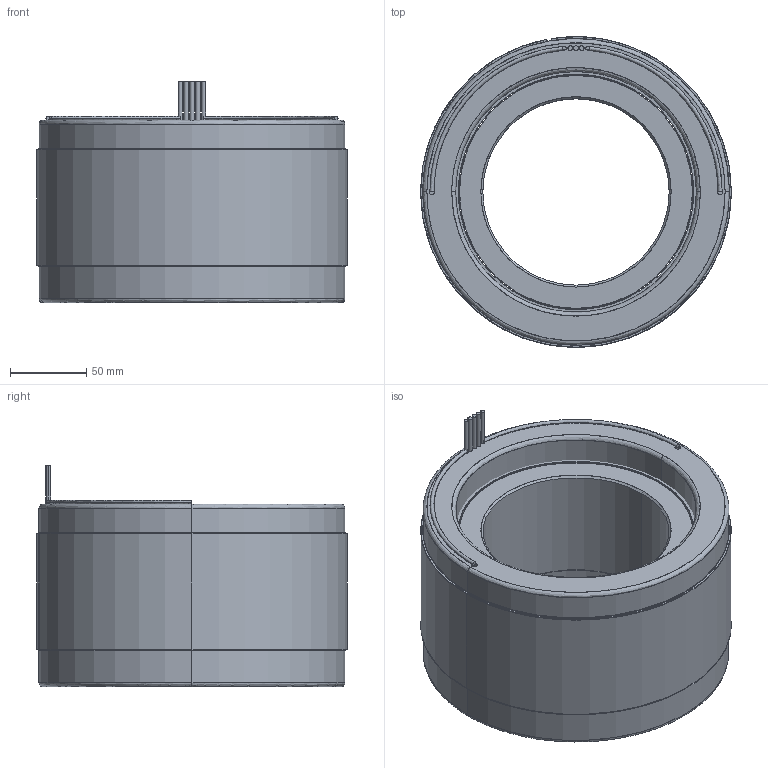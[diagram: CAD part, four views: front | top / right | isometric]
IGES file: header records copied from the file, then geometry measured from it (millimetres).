
Start section: SolidWorks IGES file using analytic representation for surfaces
Global section: file name: Z:\STANDARD STATOR ROTOR SETS\NEW DIRECT DRIVE MOTOR\8 OD 18S16P\6100337-03.IGS; native system: SolidWorks 2016; preprocessor: SolidWorks 2016; author: eng; date: 191023.160649; units: millimetre
Bounding box: 203.2 x 203.19 x 144.78 mm (x, y, z)
Surface area: 459378 mm2 (no closed solid volume)
Topology: 0 solids, 0 shells, 105 faces, 2710 edges, 2710 vertices
Faces by surface type: revolution 63, bspline 42
